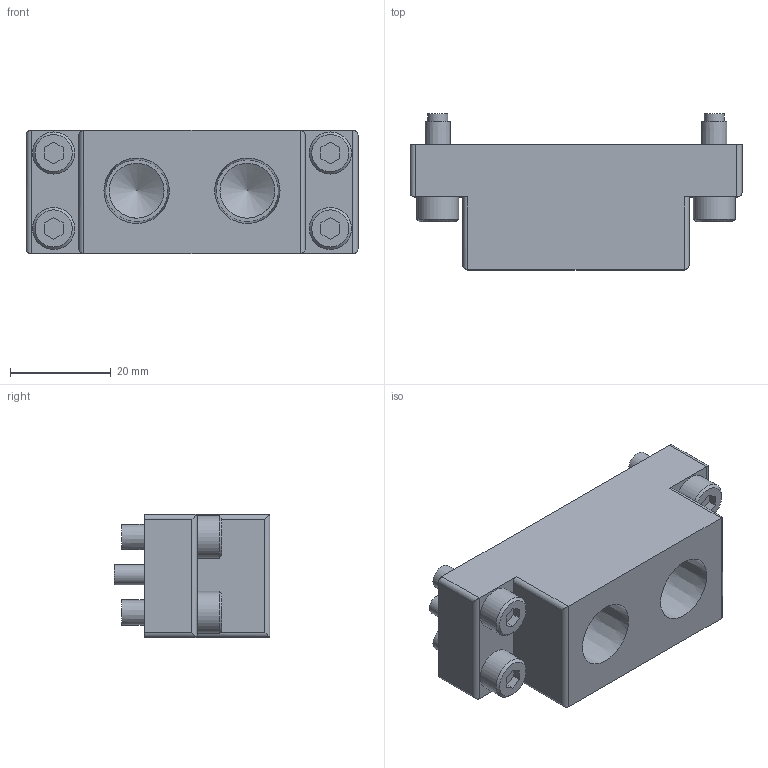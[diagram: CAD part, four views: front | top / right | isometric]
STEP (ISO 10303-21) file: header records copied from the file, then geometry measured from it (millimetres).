
FILE_DESCRIPTION(('STEP AP214'),'1');
FILE_NAME('KHB-45_300RS-EP82_ver1.stp','2026-04-27T05:38:27',(' '),(' '),'Spatial InterOp 3D',' ',' ');
FILE_SCHEMA(('AUTOMOTIVE_DESIGN { 1 0 10303 214 1 1 1 1 }'));
Length unit declared in the file: millimetre
Products named in the file (3): KHB-45~300RS-EP82_ver1; パーツ1
Assembly tree (2 placements, depth 2):
  KHB-45~300RS-EP82_ver1
    パーツ1
    パーツ1
Bounding box: 66 x 31 x 24.5 mm (x, y, z)
Volume: 28757 mm3; surface area: 11303.6 mm2
Topology: 2 solids, 3 shells, 105 faces, 236 edges, 155 vertices
Faces by surface type: plane 60, cylinder 33, cone 12
Full cylindrical faces by diameter (mm): 4 x3, 5 x4, 5.5 x4, 8.385 x4, 9 x2, 10.9 x2
Entity records: 3684 total; most frequent: CARTESIAN_POINT 600, DIRECTION 468, ORIENTED_EDGE 372, EDGE_CURVE 186, AXIS2_PLACEMENT_3D 176, EDGE_LOOP 160, VERTEX_POINT 140, FACE_OUTER_BOUND 124
